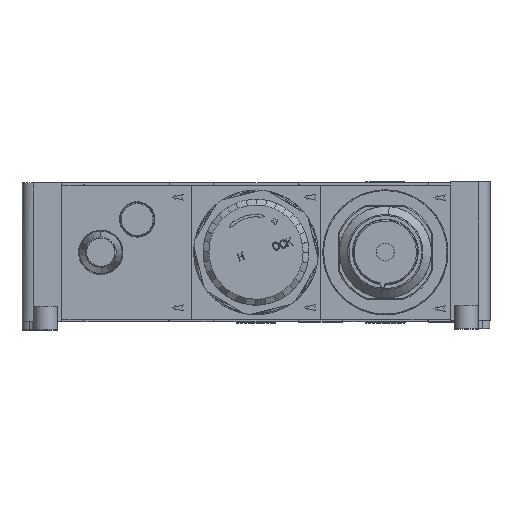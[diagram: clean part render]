
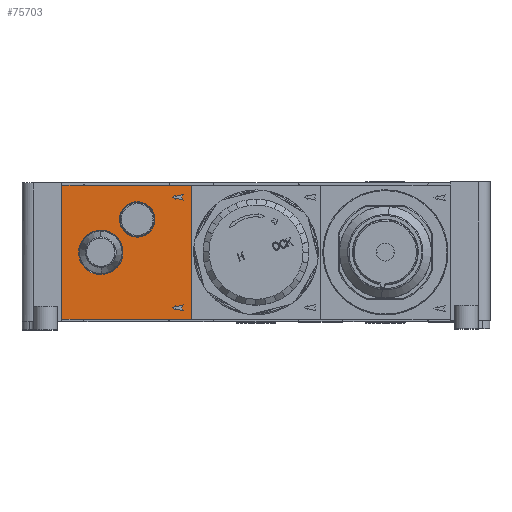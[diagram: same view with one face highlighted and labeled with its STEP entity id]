
A CAD part, top view. The second image highlights one B-rep face of the part: STEP entity #75703.
In plain terms, the highlighted planar face has unit normal (0, 0, 1).
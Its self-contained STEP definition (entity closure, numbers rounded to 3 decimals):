
#1458 = EDGE_CURVE ( 'NONE', #8004, #8005, #11835, .T. ) ;
#2073 = EDGE_CURVE ( 'NONE', #8106, #8114, #27007, .T. ) ;
#2474 = EDGE_CURVE ( 'NONE', #8005, #8106, #27213, .T. ) ;
#2477 = EDGE_CURVE ( 'NONE', #62024, #62019, #53707, .T. ) ;
#2481 = EDGE_CURVE ( 'NONE', #8114, #8004, #27214, .T. ) ;
#2484 = EDGE_CURVE ( 'NONE', #62022, #62017, #53704, .T. ) ;
#7064 = AXIS2_PLACEMENT_3D ( 'NONE', #72515, #72508, #72520 ) ;
#8004 = VERTEX_POINT ( 'NONE', #43218 ) ;
#8005 = VERTEX_POINT ( 'NONE', #43220 ) ;
#8106 = VERTEX_POINT ( 'NONE', #43383 ) ;
#8114 = VERTEX_POINT ( 'NONE', #43397 ) ;
#8520 = CARTESIAN_POINT ( 'NONE',  ( 250.159, 238.835, 0. ) ) ;
#8523 = DIRECTION ( 'NONE',  ( 0., -1., 0. ) ) ;
#11835 = LINE ( 'NONE', #8520, #11843 ) ;
#11843 = VECTOR ( 'NONE', #8523, 1000. ) ;
#26511 = DIRECTION ( 'NONE',  ( 0., 1., 0. ) ) ;
#26513 = CARTESIAN_POINT ( 'NONE',  ( 195.159, 238.835, 0. ) ) ;
#27007 = LINE ( 'NONE', #26513, #27012 ) ;
#27012 = VECTOR ( 'NONE', #26511, 1000. ) ;
#27213 = LINE ( 'NONE', #27696, #27217 ) ;
#27214 = LINE ( 'NONE', #27705, #27216 ) ;
#27216 = VECTOR ( 'NONE', #27693, 1000. ) ;
#27217 = VECTOR ( 'NONE', #27707, 1000. ) ;
#27693 = DIRECTION ( 'NONE',  ( 1., 0., 0. ) ) ;
#27696 = CARTESIAN_POINT ( 'NONE',  ( 222.659, 210.335, 0. ) ) ;
#27705 = CARTESIAN_POINT ( 'NONE',  ( 222.659, 267.335, 0. ) ) ;
#27707 = DIRECTION ( 'NONE',  ( -1., 0., 0. ) ) ;
#27710 = CARTESIAN_POINT ( 'NONE',  ( 212.359, 245.435, 0. ) ) ;
#27712 = CARTESIAN_POINT ( 'NONE',  ( 212.359, 260.235, 0. ) ) ;
#27714 = CARTESIAN_POINT ( 'NONE',  ( 227.159, 260.235, 0. ) ) ;
#27716 = CARTESIAN_POINT ( 'NONE',  ( 227.159, 245.435, 0. ) ) ;
#27722 = CARTESIAN_POINT ( 'NONE',  ( 192.759, 229.385, 0. ) ) ;
#27724 = CARTESIAN_POINT ( 'NONE',  ( 192.759, 248.285, 0. ) ) ;
#27728 = CARTESIAN_POINT ( 'NONE',  ( 211.659, 248.285, 0. ) ) ;
#27730 = CARTESIAN_POINT ( 'NONE',  ( 211.659, 229.385, 0. ) ) ;
#43218 = CARTESIAN_POINT ( 'NONE',  ( 250.159, 267.335, 0. ) ) ;
#43220 = CARTESIAN_POINT ( 'NONE',  ( 250.159, 210.335, 0. ) ) ;
#43383 = CARTESIAN_POINT ( 'NONE',  ( 195.159, 210.335, 0. ) ) ;
#43397 = CARTESIAN_POINT ( 'NONE',  ( 195.159, 267.335, 0. ) ) ;
#53704 =( BOUNDED_CURVE ( )  B_SPLINE_CURVE ( 3, ( #27728, #27724, #27722, #27730 ),
 .UNSPECIFIED., .F., .F. ) 
 B_SPLINE_CURVE_WITH_KNOTS ( ( 4, 4 ),
 ( 0.5, 1. ),
 .UNSPECIFIED. ) 
 CURVE ( )  GEOMETRIC_REPRESENTATION_ITEM ( )  RATIONAL_B_SPLINE_CURVE ( ( 1., 0.333, 0.333, 1. ) ) 
 REPRESENTATION_ITEM ( '' )  );
#53707 =( BOUNDED_CURVE ( )  B_SPLINE_CURVE ( 3, ( #27714, #27712, #27710, #27716 ),
 .UNSPECIFIED., .F., .F. ) 
 B_SPLINE_CURVE_WITH_KNOTS ( ( 4, 4 ),
 ( 0.5, 1. ),
 .UNSPECIFIED. ) 
 CURVE ( )  GEOMETRIC_REPRESENTATION_ITEM ( )  RATIONAL_B_SPLINE_CURVE ( ( 1., 0.333, 0.333, 1. ) ) 
 REPRESENTATION_ITEM ( '' )  );
#62017 = VERTEX_POINT ( 'NONE', #106038 ) ;
#62019 = VERTEX_POINT ( 'NONE', #106042 ) ;
#62022 = VERTEX_POINT ( 'NONE', #106048 ) ;
#62024 = VERTEX_POINT ( 'NONE', #106053 ) ;
#72508 = DIRECTION ( 'NONE',  ( 0., 0., -1. ) ) ;
#72515 = CARTESIAN_POINT ( 'NONE',  ( 222.659, 238.835, 0. ) ) ;
#72518 = PLANE ( 'NONE',  #7064 ) ;
#72520 = DIRECTION ( 'NONE',  ( 0., -1., 0. ) ) ;
#75703 = ADVANCED_FACE ( 'NONE', ( #100741, #100743, #100738 ), #72518, .F. ) ;
#79428 = CARTESIAN_POINT ( 'NONE',  ( 230.559, 229.385, 0. ) ) ;
#79429 = CARTESIAN_POINT ( 'NONE',  ( 211.659, 229.385, 0. ) ) ;
#79433 = CARTESIAN_POINT ( 'NONE',  ( 230.559, 248.285, 0. ) ) ;
#79434 = CARTESIAN_POINT ( 'NONE',  ( 211.659, 248.285, 0. ) ) ;
#79438 = CARTESIAN_POINT ( 'NONE',  ( 227.159, 245.435, 0. ) ) ;
#79439 = CARTESIAN_POINT ( 'NONE',  ( 241.959, 245.435, 0. ) ) ;
#79443 = CARTESIAN_POINT ( 'NONE',  ( 241.959, 260.235, 0. ) ) ;
#79444 = CARTESIAN_POINT ( 'NONE',  ( 227.159, 260.235, 0. ) ) ;
#100738 = FACE_BOUND ( 'NONE', #117114, .T. ) ;
#100741 = FACE_BOUND ( 'NONE', #117106, .T. ) ;
#100743 = FACE_OUTER_BOUND ( 'NONE', #117069, .T. ) ;
#106038 = CARTESIAN_POINT ( 'NONE',  ( 211.659, 229.385, 0. ) ) ;
#106042 = CARTESIAN_POINT ( 'NONE',  ( 227.159, 245.435, 0. ) ) ;
#106048 = CARTESIAN_POINT ( 'NONE',  ( 211.659, 248.285, 0. ) ) ;
#106053 = CARTESIAN_POINT ( 'NONE',  ( 227.159, 260.235, 0. ) ) ;
#115335 = ORIENTED_EDGE ( 'NONE', *, *, #144698, .F. ) ;
#115339 = ORIENTED_EDGE ( 'NONE', *, *, #2477, .F. ) ;
#115343 = ORIENTED_EDGE ( 'NONE', *, *, #1458, .F. ) ;
#115347 = ORIENTED_EDGE ( 'NONE', *, *, #2481, .F. ) ;
#115351 = ORIENTED_EDGE ( 'NONE', *, *, #2073, .F. ) ;
#115354 = ORIENTED_EDGE ( 'NONE', *, *, #2474, .F. ) ;
#115358 = ORIENTED_EDGE ( 'NONE', *, *, #144692, .F. ) ;
#115362 = ORIENTED_EDGE ( 'NONE', *, *, #2484, .F. ) ;
#117069 = EDGE_LOOP ( 'NONE', ( #115343, #115347, #115351, #115354 ) ) ;
#117106 = EDGE_LOOP ( 'NONE', ( #115335, #115339 ) ) ;
#117114 = EDGE_LOOP ( 'NONE', ( #115358, #115362 ) ) ;
#140984 =( BOUNDED_CURVE ( )  B_SPLINE_CURVE ( 3, ( #79429, #79428, #79433, #79434 ),
 .UNSPECIFIED., .F., .F. ) 
 B_SPLINE_CURVE_WITH_KNOTS ( ( 4, 4 ),
 ( 0., 0.5 ),
 .UNSPECIFIED. ) 
 CURVE ( )  GEOMETRIC_REPRESENTATION_ITEM ( )  RATIONAL_B_SPLINE_CURVE ( ( 1., 0.333, 0.333, 1. ) ) 
 REPRESENTATION_ITEM ( '' )  );
#140985 =( BOUNDED_CURVE ( )  B_SPLINE_CURVE ( 3, ( #79438, #79439, #79443, #79444 ),
 .UNSPECIFIED., .F., .F. ) 
 B_SPLINE_CURVE_WITH_KNOTS ( ( 4, 4 ),
 ( 0., 0.5 ),
 .UNSPECIFIED. ) 
 CURVE ( )  GEOMETRIC_REPRESENTATION_ITEM ( )  RATIONAL_B_SPLINE_CURVE ( ( 1., 0.333, 0.333, 1. ) ) 
 REPRESENTATION_ITEM ( '' )  );
#144692 = EDGE_CURVE ( 'NONE', #62017, #62022, #140984, .T. ) ;
#144698 = EDGE_CURVE ( 'NONE', #62019, #62024, #140985, .T. ) ;
